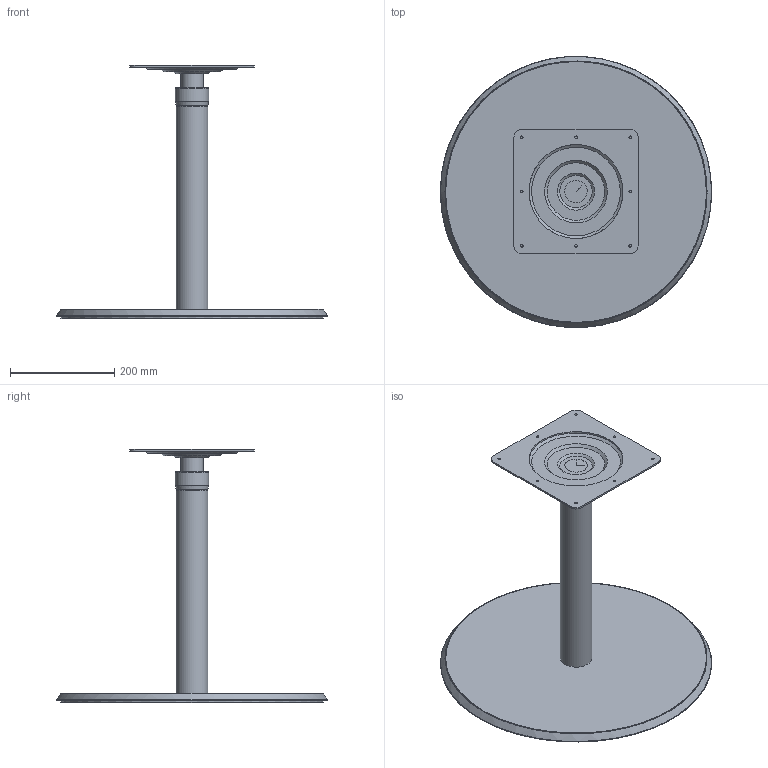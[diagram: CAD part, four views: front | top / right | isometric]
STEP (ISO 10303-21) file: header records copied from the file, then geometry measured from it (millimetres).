
FILE_DESCRIPTION(/* description */ (''),/* implementation_level */ '2;1');
FILE_NAME(/* name */ 'KINOSH~3',/* time_stamp */ '2021-08-03T18:28:58+09:00',/* author */ (''),/* organization */ (''),/* preprocessor_version */ 'ST-DEVELOPER v16.5',/* originating_system */ '',/* authorisation */ '');
FILE_SCHEMA (('AUTOMOTIVE_DESIGN'));
Length unit declared in the file: millimetre
Products named in the file (1): Document
Bounding box: 520 x 519.4 x 485 mm (x, y, z)
Volume: 1552964.5 mm3; surface area: 867509.7 mm2
Topology: 4 solids, 29 shells, 67 faces, 160 edges, 102 vertices
Faces by surface type: bspline 57, plane 10
Entity records: 3202 total; most frequent: CARTESIAN_POINT 2034, ORIENTED_EDGE 266, EDGE_CURVE 156, VERTEX_POINT 102, EDGE_LOOP 85, ADVANCED_FACE 67, FACE_OUTER_BOUND 67, B_SPLINE_CURVE_WITH_KNOTS 30
